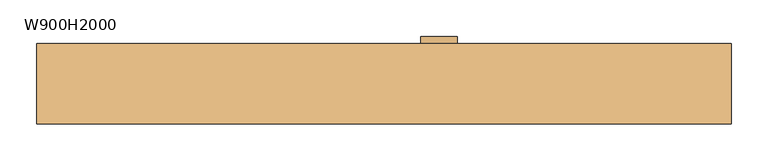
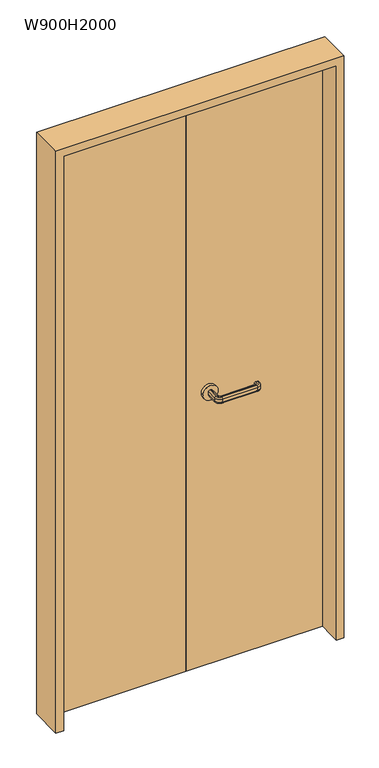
"""IFC4 building model written with IfcOpenShell, lengths in millimetres: door geometry, 両開き : W900H2000."""

from ifc_helpers import new_model, si_unit, point, frame, frame_2d, origin, origin_with_axes, place, context, project, spatial, polyline, circle_curve, ellipse_curve, trimmed, segment, composite_curve, outline, extrude, source, transform, mapped, element, save
from ifc_brep_helpers import plane_surface, cylinder_surface, revolved_surface, advanced_brep


def w900h2000_3836acd8(model_context):
    return source(origin(), model_context, "Body", "SolidModel", [
        advanced_brep(
        [(77.0, 15.0, 940.0), (73.0, 15.0, 940.0), (68.0, 15.0, 945.0), (68.0, 15.0, 955.0), (73.0, 15.0, 960.0), (77.0, 15.0, 960.0), (82.0, 15.0, 955.0), (82.0, 15.0, 945.0), (77.0, -20.0, 940.0), (85.0, -28.0, 940.0), (200.0, -28.0, 940.0), (208.0, -20.0, 940.0), (208.0, -15.0, 940.0), (212.0, -15.0, 940.0), (212.0, -20.0, 940.0), (200.0, -32.0, 940.0), (85.0, -32.0, 940.0), (73.0, -20.0, 940.0), (68.0, -20.0, 945.0), (68.0, -20.0, 955.0), (73.0, -20.0, 960.0), (85.0, -32.0, 960.0), (200.0, -32.0, 960.0), (212.0, -20.0, 960.0), (212.0, -15.0, 960.0), (208.0, -15.0, 960.0), (208.0, -20.0, 960.0), (200.0, -28.0, 960.0), (85.0, -28.0, 960.0), (77.0, -20.0, 960.0), (82.0, -20.0, 955.0), (82.0, -20.0, 945.0), (85.0, -37.0, 945.0), (85.0, -37.0, 955.0), (85.0, -23.0, 955.0), (85.0, -23.0, 945.0), (200.0, -37.0, 945.0), (200.0, -37.0, 955.0), (200.0, -23.0, 955.0), (200.0, -23.0, 945.0), (217.0, -20.0, 945.0), (217.0, -20.0, 955.0), (203.0, -20.0, 955.0), (203.0, -20.0, 945.0), (203.0, -15.0, 945.0), (203.0, -15.0, 955.0), (217.0, -15.0, 955.0), (217.0, -15.0, 945.0)],
        [
            (0, 1),
            (1, 2, circle_curve(frame((73.0, 15.0, 945.0), z_axis=(0.0, 1.0, 0.0), x_axis=(1.0, 0.0, 0.0)), 5.0)),
            (2, 3),
            (3, 4, circle_curve(frame((73.0, 15.0, 955.0), z_axis=(0.0, 1.0, 0.0), x_axis=(1.0, 0.0, 0.0)), 5.0)),
            (4, 5),
            (5, 6, circle_curve(frame((77.0, 15.0, 955.0), z_axis=(0.0, 1.0, 0.0), x_axis=(1.0, 0.0, 0.0)), 5.0)),
            (6, 7),
            (7, 0, circle_curve(frame((77.0, 15.0, 945.0), z_axis=(0.0, 1.0, 0.0), x_axis=(1.0, 0.0, 0.0)), 5.0)),
            (0, 8),
            (8, 9, circle_curve(frame((85.0, -20.0, 940.0), z_axis=(0.0, 0.0, 1.0), x_axis=(-1.0, 0.0, 0.0)), 8.0)),
            (9, 10),
            (10, 11, circle_curve(frame((200.0, -20.0, 940.0), z_axis=(0.0, 0.0, 1.0), x_axis=(0.0, -1.0, 0.0)), 8.0)),
            (11, 12),
            (12, 13),
            (13, 14),
            (14, 15, circle_curve(frame((200.0, -20.0, 940.0), z_axis=(0.0, 0.0, -1.0), x_axis=(0.0, -1.0, 0.0)), 12.0)),
            (15, 16),
            (16, 17, circle_curve(frame((85.0, -20.0, 940.0), z_axis=(0.0, 0.0, -1.0), x_axis=(-1.0, 0.0, 0.0)), 12.0)),
            (17, 1),
            (17, 18, circle_curve(frame((73.0, -20.0, 945.0), z_axis=(0.0, 1.0, 0.0), x_axis=(1.0, 0.0, 0.0)), 5.0)),
            (18, 2),
            (18, 19),
            (19, 3),
            (19, 20, circle_curve(frame((73.0, -20.0, 955.0), z_axis=(0.0, 1.0, 0.0), x_axis=(1.0, 0.0, 0.0)), 5.0)),
            (20, 4),
            (20, 21, circle_curve(frame((85.0, -20.0, 960.0), z_axis=(0.0, 0.0, 1.0), x_axis=(-1.0, 0.0, 0.0)), 12.0)),
            (21, 22),
            (22, 23, circle_curve(frame((200.0, -20.0, 960.0), z_axis=(0.0, 0.0, 1.0), x_axis=(0.0, -1.0, 0.0)), 12.0)),
            (23, 24),
            (24, 25),
            (25, 26),
            (26, 27, circle_curve(frame((200.0, -20.0, 960.0), z_axis=(0.0, 0.0, -1.0), x_axis=(0.0, -1.0, 0.0)), 8.0)),
            (27, 28),
            (28, 29, circle_curve(frame((85.0, -20.0, 960.0), z_axis=(0.0, 0.0, -1.0), x_axis=(-1.0, 0.0, 0.0)), 8.0)),
            (29, 5),
            (29, 30, circle_curve(frame((77.0, -20.0, 955.0), z_axis=(0.0, 1.0, 0.0), x_axis=(1.0, 0.0, 0.0)), 5.0)),
            (30, 6),
            (30, 31),
            (31, 7),
            (31, 8, circle_curve(frame((77.0, -20.0, 945.0), z_axis=(0.0, 1.0, 0.0), x_axis=(1.0, 0.0, 0.0)), 5.0)),
            (32, 18, circle_curve(frame((85.0, -20.0, 945.0), z_axis=(0.0, 0.0, -1.0), x_axis=(-1.0, 0.0, 0.0)), 17.0)),
            (16, 32, circle_curve(frame((85.0, -32.0, 945.0), z_axis=(-1.0, 0.0, 0.0), x_axis=(0.0, 1.0, 0.0)), 5.0)),
            (33, 19, circle_curve(frame((85.0, -20.0, 955.0), z_axis=(0.0, 0.0, -1.0), x_axis=(-1.0, 0.0, 0.0)), 17.0)),
            (32, 33),
            (33, 21, circle_curve(frame((85.0, -32.0, 955.0), z_axis=(-1.0, 0.0, 0.0), x_axis=(0.0, 1.0, 0.0)), 5.0)),
            (34, 30, circle_curve(frame((85.0, -20.0, 955.0), z_axis=(0.0, 0.0, -1.0), x_axis=(-1.0, 0.0, 0.0)), 3.0)),
            (28, 34, circle_curve(frame((85.0, -28.0, 955.0), z_axis=(-1.0, 0.0, 0.0), x_axis=(0.0, 1.0, 0.0)), 5.0)),
            (35, 31, circle_curve(frame((85.0, -20.0, 945.0), z_axis=(0.0, 0.0, -1.0), x_axis=(-1.0, 0.0, 0.0)), 3.0)),
            (34, 35),
            (35, 9, circle_curve(frame((85.0, -28.0, 945.0), z_axis=(-1.0, 0.0, 0.0), x_axis=(0.0, 1.0, 0.0)), 5.0)),
            (15, 36, circle_curve(frame((200.0, -32.0, 945.0), z_axis=(-1.0, 0.0, 0.0), x_axis=(0.0, 1.0, 0.0)), 5.0)),
            (36, 32),
            (36, 37),
            (37, 33),
            (37, 22, circle_curve(frame((200.0, -32.0, 955.0), z_axis=(-1.0, 0.0, 0.0), x_axis=(0.0, 1.0, 0.0)), 5.0)),
            (27, 38, circle_curve(frame((200.0, -28.0, 955.0), z_axis=(-1.0, 0.0, 0.0), x_axis=(0.0, 1.0, 0.0)), 5.0)),
            (38, 34),
            (38, 39),
            (39, 35),
            (39, 10, circle_curve(frame((200.0, -28.0, 945.0), z_axis=(-1.0, 0.0, 0.0), x_axis=(0.0, 1.0, 0.0)), 5.0)),
            (40, 36, circle_curve(frame((200.0, -20.0, 945.0), z_axis=(0.0, 0.0, -1.0), x_axis=(0.0, -1.0, 0.0)), 17.0)),
            (14, 40, circle_curve(frame((212.0, -20.0, 945.0), z_axis=(0.0, -1.0, 0.0), x_axis=(-1.0, 0.0, 0.0)), 5.0)),
            (41, 37, circle_curve(frame((200.0, -20.0, 955.0), z_axis=(0.0, 0.0, -1.0), x_axis=(0.0, -1.0, 0.0)), 17.0)),
            (40, 41),
            (41, 23, circle_curve(frame((212.0, -20.0, 955.0), z_axis=(0.0, -1.0, 0.0), x_axis=(-1.0, 0.0, 0.0)), 5.0)),
            (42, 38, circle_curve(frame((200.0, -20.0, 955.0), z_axis=(0.0, 0.0, -1.0), x_axis=(0.0, -1.0, 0.0)), 3.0)),
            (26, 42, circle_curve(frame((208.0, -20.0, 955.0), z_axis=(0.0, -1.0, 0.0), x_axis=(-1.0, 0.0, 0.0)), 5.0)),
            (43, 39, circle_curve(frame((200.0, -20.0, 945.0), z_axis=(0.0, 0.0, -1.0), x_axis=(0.0, -1.0, 0.0)), 3.0)),
            (42, 43),
            (43, 11, circle_curve(frame((208.0, -20.0, 945.0), z_axis=(0.0, -1.0, 0.0), x_axis=(-1.0, 0.0, 0.0)), 5.0)),
            (12, 44, circle_curve(frame((208.0, -15.0, 945.0), z_axis=(0.0, 1.0, 0.0), x_axis=(-1.0, 0.0, 0.0)), 5.0)),
            (44, 45),
            (45, 25, circle_curve(frame((208.0, -15.0, 955.0), z_axis=(0.0, 1.0, 0.0), x_axis=(-1.0, 0.0, 0.0)), 5.0)),
            (24, 46, circle_curve(frame((212.0, -15.0, 955.0), z_axis=(0.0, 1.0, 0.0), x_axis=(-1.0, 0.0, 0.0)), 5.0)),
            (46, 47),
            (47, 13, circle_curve(frame((212.0, -15.0, 945.0), z_axis=(0.0, 1.0, 0.0), x_axis=(-1.0, 0.0, 0.0)), 5.0)),
            (47, 40),
            (46, 41),
            (45, 42),
            (44, 43),
        ],
        [
            plane_surface(frame((64.801961, 15.0, 950.0), z_axis=(0.0, 1.0, 0.0), x_axis=(0.0, 0.0, -1.0))),
            plane_surface(frame((77.0, 15.0, 940.0), z_axis=(0.0, 0.0, -1.0), x_axis=(0.0, -1.0, 0.0))),
            cylinder_surface(frame((73.0, 15.0, 945.0), z_axis=(0.0, 1.0, 0.0), x_axis=(1.0, 0.0, 0.0)), 5.0),
            plane_surface(frame((68.0, 15.0, 945.0), z_axis=(-1.0, 0.0, 0.0), x_axis=(0.0, -1.0, 0.0))),
            cylinder_surface(frame((73.0, 15.0, 955.0), z_axis=(0.0, 1.0, 0.0), x_axis=(1.0, 0.0, 0.0)), 5.0),
            plane_surface(frame((73.0, 15.0, 960.0), z_axis=(0.0, 0.0, 1.0), x_axis=(0.0, -1.0, 0.0))),
            cylinder_surface(frame((77.0, 15.0, 955.0), z_axis=(0.0, 1.0, 0.0), x_axis=(1.0, 0.0, 0.0)), 5.0),
            plane_surface(frame((82.0, 15.0, 955.0), z_axis=(1.0, 0.0, 0.0), x_axis=(0.0, -1.0, 0.0))),
            cylinder_surface(frame((77.0, 15.0, 945.0), z_axis=(0.0, 1.0, 0.0), x_axis=(1.0, 0.0, 0.0)), 5.0),
            revolved_surface(trimmed(ellipse_curve(frame((73.0, -20.0, 945.0), z_axis=(0.0, 1.0, 0.0), x_axis=(1.0, 0.0, 0.0)), 5.0, 5.0), [point((73.0, -20.0, 940.0))], [point((68.0, -20.0, 945.0))], True, "CARTESIAN"), (85.0, -20.0, 950.0), (0.0, 0.0, 1.0)),
            cylinder_surface(frame((85.0, -20.0, 950.0), z_axis=(0.0, 0.0, 1.0), x_axis=(-1.0, 0.0, 0.0)), 17.0),
            revolved_surface(trimmed(ellipse_curve(frame((73.0, -20.0, 955.0), z_axis=(0.0, 1.0, 0.0), x_axis=(1.0, 0.0, 0.0)), 5.0, 5.0), [point((68.0, -20.0, 955.0))], [point((73.0, -20.0, 960.0))], True, "CARTESIAN"), (85.0, -20.0, 950.0), (0.0, 0.0, 1.0)),
            revolved_surface(trimmed(ellipse_curve(frame((77.0, -20.0, 955.0), z_axis=(0.0, 1.0, 0.0), x_axis=(1.0, 0.0, 0.0)), 5.0, 5.0), [point((77.0, -20.0, 960.0))], [point((82.0, -20.0, 955.0))], True, "CARTESIAN"), (85.0, -20.0, 950.0), (0.0, 0.0, 1.0)),
            revolved_surface(polyline([(82.0, -20.0, 955.0), (82.0, -20.0, 945.0)]), (85.0, -20.0, 950.0), (0.0, 0.0, 1.0)),
            revolved_surface(trimmed(ellipse_curve(frame((77.0, -20.0, 945.0), z_axis=(0.0, 1.0, 0.0), x_axis=(1.0, 0.0, 0.0)), 5.0, 5.0), [point((82.0, -20.0, 945.0))], [point((77.0, -20.0, 940.0))], True, "CARTESIAN"), (85.0, -20.0, 950.0), (0.0, 0.0, 1.0)),
            cylinder_surface(frame((85.0, -32.0, 945.0), z_axis=(-1.0, 0.0, 0.0), x_axis=(0.0, 1.0, 0.0)), 5.0),
            plane_surface(frame((85.0, -37.0, 945.0), z_axis=(0.0, -1.0, 0.0), x_axis=(1.0, 0.0, 0.0))),
            cylinder_surface(frame((85.0, -32.0, 955.0), z_axis=(-1.0, 0.0, 0.0), x_axis=(0.0, 1.0, 0.0)), 5.0),
            cylinder_surface(frame((85.0, -28.0, 955.0), z_axis=(-1.0, 0.0, 0.0), x_axis=(0.0, 1.0, 0.0)), 5.0),
            plane_surface(frame((85.0, -23.0, 955.0), z_axis=(0.0, 1.0, 0.0), x_axis=(1.0, 0.0, 0.0))),
            cylinder_surface(frame((85.0, -28.0, 945.0), z_axis=(-1.0, 0.0, 0.0), x_axis=(0.0, 1.0, 0.0)), 5.0),
            revolved_surface(trimmed(ellipse_curve(frame((200.0, -32.0, 945.0), z_axis=(-1.0, 0.0, 0.0), x_axis=(0.0, 1.0, 0.0)), 5.0, 5.0), [point((200.0, -32.0, 940.0))], [point((200.0, -37.0, 945.0))], True, "CARTESIAN"), (200.0, -20.0, 950.0), (0.0, 0.0, 1.0)),
            cylinder_surface(frame((200.0, -20.0, 950.0), z_axis=(0.0, 0.0, 1.0), x_axis=(0.0, -1.0, 0.0)), 17.0),
            revolved_surface(trimmed(ellipse_curve(frame((200.0, -32.0, 955.0), z_axis=(-1.0, 0.0, 0.0), x_axis=(0.0, 1.0, 0.0)), 5.0, 5.0), [point((200.0, -37.0, 955.0))], [point((200.0, -32.0, 960.0))], True, "CARTESIAN"), (200.0, -20.0, 950.0), (0.0, 0.0, 1.0)),
            revolved_surface(trimmed(ellipse_curve(frame((200.0, -28.0, 955.0), z_axis=(-1.0, 0.0, 0.0), x_axis=(0.0, 1.0, 0.0)), 5.0, 5.0), [point((200.0, -28.0, 960.0))], [point((200.0, -23.0, 955.0))], True, "CARTESIAN"), (200.0, -20.0, 950.0), (0.0, 0.0, 1.0)),
            revolved_surface(polyline([(200.0, -23.0, 955.0), (200.0, -23.0, 945.0)]), (200.0, -20.0, 950.0), (0.0, 0.0, 1.0)),
            revolved_surface(trimmed(ellipse_curve(frame((200.0, -28.0, 945.0), z_axis=(-1.0, 0.0, 0.0), x_axis=(0.0, 1.0, 0.0)), 5.0, 5.0), [point((200.0, -23.0, 945.0))], [point((200.0, -28.0, 940.0))], True, "CARTESIAN"), (200.0, -20.0, 950.0), (0.0, 0.0, 1.0)),
            plane_surface(frame((199.801961, -15.0, 950.0), z_axis=(0.0, 1.0, 0.0), x_axis=(0.0, 0.0, 1.0))),
            cylinder_surface(frame((212.0, -20.0, 945.0), z_axis=(0.0, -1.0, 0.0), x_axis=(-1.0, 0.0, 0.0)), 5.0),
            plane_surface(frame((217.0, -20.0, 945.0), z_axis=(1.0, 0.0, 0.0), x_axis=(0.0, 1.0, 0.0))),
            cylinder_surface(frame((212.0, -20.0, 955.0), z_axis=(0.0, -1.0, 0.0), x_axis=(-1.0, 0.0, 0.0)), 5.0),
            cylinder_surface(frame((208.0, -20.0, 955.0), z_axis=(0.0, -1.0, 0.0), x_axis=(-1.0, 0.0, 0.0)), 5.0),
            plane_surface(frame((203.0, -20.0, 955.0), z_axis=(-1.0, 0.0, 0.0), x_axis=(0.0, 1.0, 0.0))),
            cylinder_surface(frame((208.0, -20.0, 945.0), z_axis=(0.0, -1.0, 0.0), x_axis=(-1.0, 0.0, 0.0)), 5.0),
        ],
        [
            (0, [[1, 2, 3, 4, 5, 6, 7, 8]]),
            (1, [[-1, 9, 10, 11, 12, 13, 14, 15, 16, 17, 18, 19]]),
            (2, [[-2, -19, 20, 21]]),
            (3, [[-3, -21, 22, 23]]),
            (4, [[-4, -23, 24, 25]]),
            (5, [[-5, -25, 26, 27, 28, 29, 30, 31, 32, 33, 34, 35]]),
            (6, [[-6, -35, 36, 37]]),
            (7, [[-7, -37, 38, 39]]),
            (8, [[-8, -39, 40, -9]]),
            (9, [[41, -20, -18, 42]]),
            (10, [[43, -22, -41, 44]]),
            (11, [[-26, -24, -43, 45]]),
            (12, [[46, -36, -34, 47]]),
            (13, [[48, -38, -46, 49]]),
            (14, [[-10, -40, -48, 50]]),
            (15, [[-42, -17, 51, 52]]),
            (16, [[-44, -52, 53, 54]]),
            (17, [[-45, -54, 55, -27]]),
            (18, [[-47, -33, 56, 57]]),
            (19, [[-49, -57, 58, 59]]),
            (20, [[-50, -59, 60, -11]]),
            (21, [[61, -51, -16, 62]]),
            (22, [[63, -53, -61, 64]]),
            (23, [[-28, -55, -63, 65]]),
            (24, [[66, -56, -32, 67]]),
            (25, [[68, -58, -66, 69]]),
            (26, [[-12, -60, -68, 70]]),
            (27, [[71, 72, 73, -30, 74, 75, 76, -14]]),
            (28, [[-62, -15, -76, 77]]),
            (29, [[-64, -77, -75, 78]]),
            (30, [[-65, -78, -74, -29]]),
            (31, [[-67, -31, -73, 79]]),
            (32, [[-69, -79, -72, 80]]),
            (33, [[-70, -80, -71, -13]]),
        ],
    ),
        extrude(outline(composite_curve([segment(trimmed(circle_curve(frame_2d((950.0, 75.0)), 25.0), [point((950.0, 50.0))], [point((950.0, 100.0))], False, "CARTESIAN"), True, "CONTINUOUS"), segment(trimmed(circle_curve(frame_2d((950.0, 75.0)), 25.0), [point((950.0, 100.0))], [point((950.0, 50.0))], False, "CARTESIAN"), True, "CONTINUOUS")], self_intersect=False)), frame((0.0, 55.0, 0.0), z_axis=(0.0, 1.0, 0.0), x_axis=(0.0, 0.0, 1.0)), (0.0, 0.0, 1.0), 10.0),
        extrude(outline(composite_curve([segment(trimmed(circle_curve(frame_2d((950.0, 75.0)), 25.0), [point((950.0, 50.0))], [point((950.0, 100.0))], False, "CARTESIAN"), True, "CONTINUOUS"), segment(trimmed(circle_curve(frame_2d((950.0, 75.0)), 25.0), [point((950.0, 100.0))], [point((950.0, 50.0))], False, "CARTESIAN"), True, "CONTINUOUS")], self_intersect=False)), frame((0.0, 15.0, 0.0), z_axis=(0.0, 1.0, 0.0), x_axis=(0.0, 0.0, 1.0)), (0.0, 0.0, 1.0), 10.0),
        extrude(outline(polyline([(450.0, 25.0), (0.0, 25.0), (0.0, 55.0), (450.0, 55.0), (450.0, 25.0)])), origin_with_axes(), (0.0, 0.0, 1.0), 2000.0),
        extrude(outline(polyline([(2025.0, -475.0), (0.0, -475.0), (0.0, -450.0), (2000.0, -450.0), (2000.0, 450.0), (0.0, 450.0), (0.0, 475.0), (2025.0, 475.0), (2025.0, -475.0)])), frame((0.0, -55.0, 0.0), z_axis=(0.0, 1.0, 0.0), x_axis=(0.0, 0.0, 1.0)), (0.0, 0.0, 1.0), 110.0),
        extrude(outline(polyline([(0.0, 25.0), (-450.0, 25.0), (-450.0, 55.0), (0.0, 55.0), (0.0, 25.0)])), origin_with_axes(), (0.0, 0.0, 1.0), 2000.0),
    ])


if __name__ == "__main__":
    model = new_model("IFC4")
    model_context = context("Model", 3, world=origin())
    ifc_project = project(units=[si_unit("LENGTHUNIT", "METRE", prefix="MILLI")], contexts=[model_context])
    site = spatial("IfcSite", under=ifc_project)
    building = spatial("IfcBuilding", under=site)
    placement = place(None, origin())
    w900h2000_shape = w900h2000_3836acd8(model_context)
    element("IfcDoor", 1, ObjectType="両開き : W900H2000", at=placement, inside=building, context=model_context, shape_type="MappedRepresentation", body=[
        mapped(w900h2000_shape, transform((0.0, 0.0, 0.0), x_axis=(1.0, 0.0, 0.0), y_axis=(0.0, 1.0, 0.0), z_axis=(0.0, 0.0, 1.0))),
    ])
    save(model, "model.ifc")
